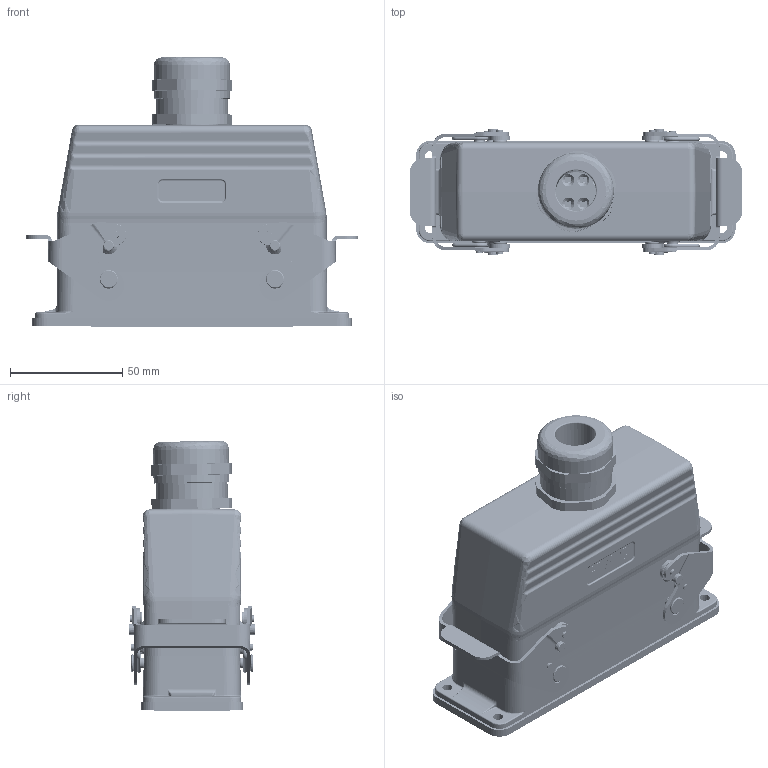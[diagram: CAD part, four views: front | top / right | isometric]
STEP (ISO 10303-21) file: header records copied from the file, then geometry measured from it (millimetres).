
FILE_DESCRIPTION (( 'STEP AP214' ), '1' );
FILE_NAME ('09124102125M HESH、24针、开孔底座、顶出M25套件、配金属接头.STEP', '2024-04-30T05:08:54', ( 'L' ), ( '' ), 'SwSTEP 2.0', 'SolidWorks 2019', '' );
FILE_SCHEMA (( 'AUTOMOTIVE_DESIGN' ));
Length unit declared in the file: millimetre
Products named in the file (6): HESH-024-F.stp; FAS-25-M.step; H24B-AG.step; HESH-024-M.stp; 09124102125M HESH、24针、开孔底座、顶出M25套件、配金属接头; H24B-TG-M25.step
Assembly tree (5 placements, depth 2):
  09124102125M HESH、24针、开孔底座、顶出M25套件、配金属接头
    H24B-AG.step
    HESH-024-M.stp
    HESH-024-F.stp
    H24B-TG-M25.step
    FAS-25-M.step
Bounding box: 147.79 x 56.4 x 120.38 mm (x, y, z)
Volume: 299726.8 mm3; surface area: 154527.8 mm2
Topology: 5 solids, 13 shells, 4751 faces, 12215 edges, 7688 vertices
Faces by surface type: plane 2220, cylinder 1240, cone 638, bspline 349, torus 236, sphere 68
Entity records: 180043 total; most frequent: CARTESIAN_POINT 54804, ORIENTED_EDGE 24182, DIRECTION 22235, EDGE_CURVE 12091, AXIS2_PLACEMENT_3D 7736, VERTEX_POINT 7688, LINE 6763, VECTOR 6763
